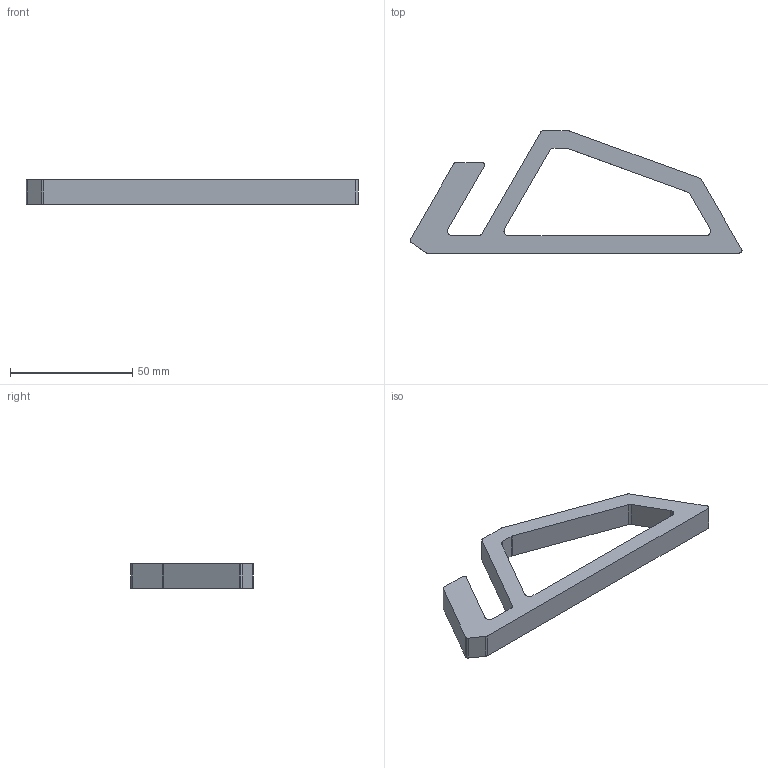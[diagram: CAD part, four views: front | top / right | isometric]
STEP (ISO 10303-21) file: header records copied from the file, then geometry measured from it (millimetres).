
FILE_DESCRIPTION (( 'STEP AP214' ), '1' );
FILE_NAME ('laptop_stand.STEP', '2020-12-10T21:05:30', ( '' ), ( '' ), 'SwSTEP 2.0', 'SolidWorks 2018', '' );
FILE_SCHEMA (( 'AUTOMOTIVE_DESIGN' ));
Length unit declared in the file: millimetre
Products named in the file (1): laptop_stand
Bounding box: 135.94 x 50 x 10 mm (x, y, z)
Volume: 22590.7 mm3; surface area: 10409.3 mm2
Topology: 1 solids, 1 shells, 34 faces, 96 edges, 64 vertices
Faces by surface type: cylinder 17, plane 17
Entity records: 1152 total; most frequent: DIRECTION 200, CARTESIAN_POINT 195, ORIENTED_EDGE 192, EDGE_CURVE 96, AXIS2_PLACEMENT_3D 69, VERTEX_POINT 64, LINE 62, VECTOR 62
